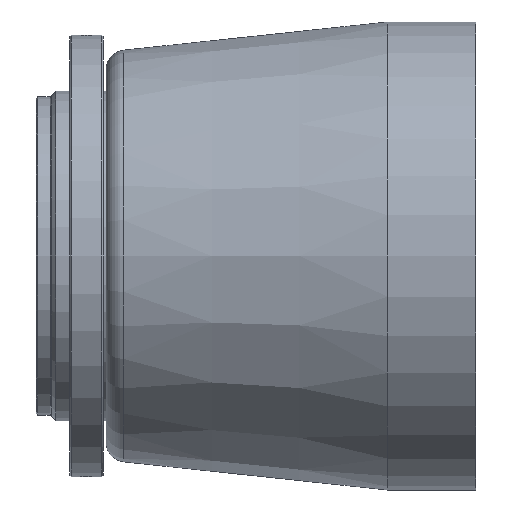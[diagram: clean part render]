
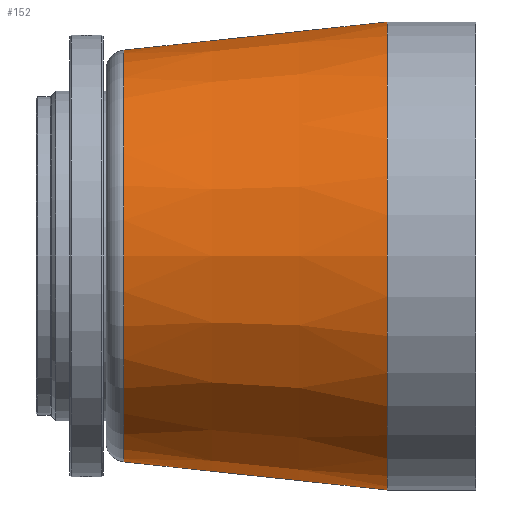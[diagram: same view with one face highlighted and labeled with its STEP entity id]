
A CAD part, left-side view. The second image highlights one B-rep face of the part: STEP entity #152.
In plain terms, the highlighted conical face has half-angle 6.094 degrees and reference radius 83.75 mm.
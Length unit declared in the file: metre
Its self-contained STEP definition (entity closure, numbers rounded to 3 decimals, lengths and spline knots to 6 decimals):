
#152=ADVANCED_FACE('',(#343,#344),#345,.T.);
#343=FACE_BOUND('',#614,.T.);
#344=FACE_OUTER_BOUND('',#615,.T.);
#345=CONICAL_SURFACE('',#616,0.08375,0.106);
#614=EDGE_LOOP('',(#919));
#615=EDGE_LOOP('',(#920));
#616=AXIS2_PLACEMENT_3D('',#921,#922,#923);
#919=ORIENTED_EDGE('',*,*,#1337,.F.);
#920=ORIENTED_EDGE('',*,*,#1338,.T.);
#921=CARTESIAN_POINT('',(-0.035048,0.014113,0.0));
#922=DIRECTION('',(0.0,-1.0,-0.0));
#923=DIRECTION('',(0.0,0.0,-1.0));
#1337=EDGE_CURVE('',#1548,#1548,#1549,.T.);
#1338=EDGE_CURVE('',#1550,#1550,#1551,.T.);
#1548=VERTEX_POINT('',#1945);
#1549=CIRCLE('',#1946,0.073663);
#1550=VERTEX_POINT('',#1947);
#1551=CIRCLE('',#1948,0.08375);
#1945=CARTESIAN_POINT('',(-0.035048,0.10859,0.073663));
#1946=AXIS2_PLACEMENT_3D('',#2250,#2251,#2252);
#1947=CARTESIAN_POINT('',(-0.035048,0.014113,0.08375));
#1948=AXIS2_PLACEMENT_3D('',#2253,#2254,#2255);
#2250=CARTESIAN_POINT('',(-0.035048,0.10859,0.0));
#2251=DIRECTION('',(0.0,1.0,0.0));
#2252=DIRECTION('',(0.0,0.0,1.0));
#2253=CARTESIAN_POINT('',(-0.035048,0.014113,0.0));
#2254=DIRECTION('',(0.0,1.0,0.0));
#2255=DIRECTION('',(0.0,0.0,1.0));
